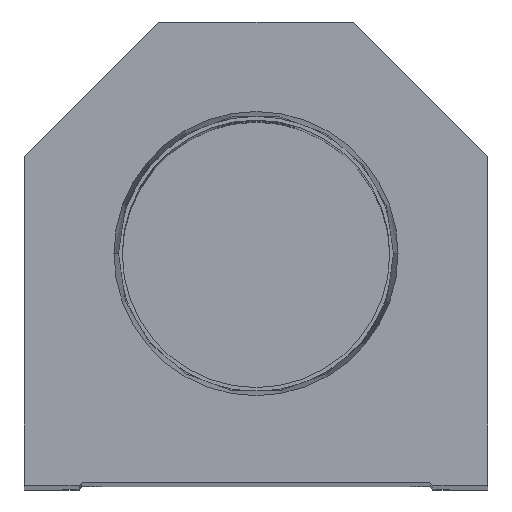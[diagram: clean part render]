
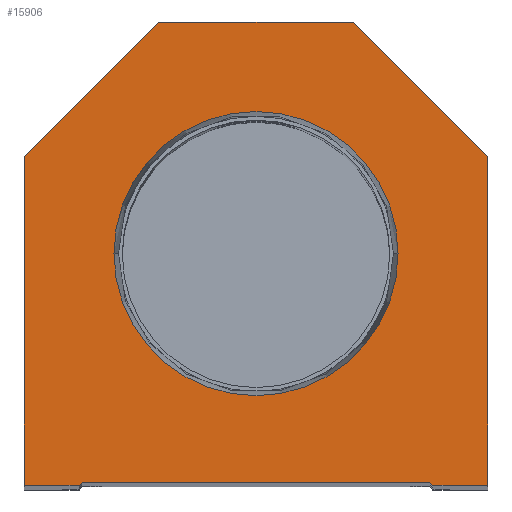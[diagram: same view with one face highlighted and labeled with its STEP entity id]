
A CAD part, top view. The second image highlights one B-rep face of the part: STEP entity #15906.
In plain terms, the highlighted planar face has unit normal (0, 0, 1).
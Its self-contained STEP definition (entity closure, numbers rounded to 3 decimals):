
#219 = CARTESIAN_POINT ( 'NONE',  ( 0., 38.1, 0. ) ) ;
#246 = LINE ( 'NONE', #3208, #18527 ) ;
#259 = DIRECTION ( 'NONE',  ( -1., 0., 0. ) ) ;
#434 = VERTEX_POINT ( 'NONE', #5873 ) ;
#724 = VERTEX_POINT ( 'NONE', #2508 ) ;
#907 = CARTESIAN_POINT ( 'NONE',  ( -38.1, 54.1, 0. ) ) ;
#1004 = DIRECTION ( 'NONE',  ( 0.707, 0.707, 0. ) ) ;
#1128 = LINE ( 'NONE', #7041, #18138 ) ;
#1333 = FACE_OUTER_BOUND ( 'NONE', #13747, .T. ) ;
#1508 = ORIENTED_EDGE ( 'NONE', *, *, #17339, .T. ) ;
#1528 = CARTESIAN_POINT ( 'NONE',  ( 0., 0., 0. ) ) ;
#1847 = LINE ( 'NONE', #17869, #14902 ) ;
#1935 = DIRECTION ( 'NONE',  ( 0.707, -0.707, 0. ) ) ;
#2019 = DIRECTION ( 'NONE',  ( 1., 0., 0. ) ) ;
#2057 = VERTEX_POINT ( 'NONE', #7004 ) ;
#2158 = LINE ( 'NONE', #9675, #15221 ) ;
#2508 = CARTESIAN_POINT ( 'NONE',  ( 16., 76.2, 0. ) ) ;
#2545 = VECTOR ( 'NONE', #17493, 1000. ) ;
#2548 = VERTEX_POINT ( 'NONE', #15929 ) ;
#2616 = AXIS2_PLACEMENT_3D ( 'NONE', #219, #4869, #2019 ) ;
#2755 = CARTESIAN_POINT ( 'NONE',  ( 29.1, 0., 0. ) ) ;
#2778 = DIRECTION ( 'NONE',  ( 0., 0., 1. ) ) ;
#2848 = EDGE_CURVE ( 'NONE', #2057, #11576, #11567, .T. ) ;
#3208 = CARTESIAN_POINT ( 'NONE',  ( 38.1, 54.1, 0. ) ) ;
#4226 = EDGE_CURVE ( 'NONE', #8036, #10357, #1128, .T. ) ;
#4869 = DIRECTION ( 'NONE',  ( 0., 0., 1. ) ) ;
#4924 = LINE ( 'NONE', #11977, #16114 ) ;
#4927 = EDGE_CURVE ( 'NONE', #17643, #2057, #13966, .T. ) ;
#4932 = ORIENTED_EDGE ( 'NONE', *, *, #16409, .T. ) ;
#4944 = DIRECTION ( 'NONE',  ( 0., 0., 1. ) ) ;
#5067 = ORIENTED_EDGE ( 'NONE', *, *, #4226, .T. ) ;
#5224 = ORIENTED_EDGE ( 'NONE', *, *, #2848, .T. ) ;
#5424 = AXIS2_PLACEMENT_3D ( 'NONE', #1528, #2778, #14487 ) ;
#5519 = DIRECTION ( 'NONE',  ( 1., 0., 0. ) ) ;
#5597 = CIRCLE ( 'NONE', #11966, 23.374 ) ;
#5873 = CARTESIAN_POINT ( 'NONE',  ( 28.6, 0.5, 0. ) ) ;
#6478 = ORIENTED_EDGE ( 'NONE', *, *, #8342, .T. ) ;
#7004 = CARTESIAN_POINT ( 'NONE',  ( -38.1, 54.1, 0. ) ) ;
#7041 = CARTESIAN_POINT ( 'NONE',  ( 28.6, 0., 0. ) ) ;
#7797 = CIRCLE ( 'NONE', #2616, 23.374 ) ;
#7862 = EDGE_LOOP ( 'NONE', ( #15260, #9774 ) ) ;
#8036 = VERTEX_POINT ( 'NONE', #2755 ) ;
#8342 = EDGE_CURVE ( 'NONE', #434, #8036, #1847, .T. ) ;
#8355 = DIRECTION ( 'NONE',  ( 0., 1., 0. ) ) ;
#8694 = PLANE ( 'NONE',  #5424 ) ;
#8721 = VECTOR ( 'NONE', #12517, 1000. ) ;
#8730 = CARTESIAN_POINT ( 'NONE',  ( -38.1, 0., 0. ) ) ;
#9199 = EDGE_CURVE ( 'NONE', #10568, #2548, #11566, .T. ) ;
#9307 = CARTESIAN_POINT ( 'NONE',  ( 16., 76.2, 0. ) ) ;
#9402 = LINE ( 'NONE', #14057, #15802 ) ;
#9675 = CARTESIAN_POINT ( 'NONE',  ( -28.6, 0.5, 0. ) ) ;
#9773 = CARTESIAN_POINT ( 'NONE',  ( -14.55, 14.55, 0. ) ) ;
#9774 = ORIENTED_EDGE ( 'NONE', *, *, #10637, .F. ) ;
#10080 = ORIENTED_EDGE ( 'NONE', *, *, #15539, .T. ) ;
#10357 = VERTEX_POINT ( 'NONE', #12381 ) ;
#10509 = ORIENTED_EDGE ( 'NONE', *, *, #9199, .T. ) ;
#10568 = VERTEX_POINT ( 'NONE', #16984 ) ;
#10637 = EDGE_CURVE ( 'NONE', #17775, #16775, #5597, .T. ) ;
#11312 = VECTOR ( 'NONE', #1004, 1000. ) ;
#11429 = CARTESIAN_POINT ( 'NONE',  ( -16., 76.2, 0. ) ) ;
#11566 = LINE ( 'NONE', #9773, #11312 ) ;
#11567 = LINE ( 'NONE', #8730, #2545 ) ;
#11576 = VERTEX_POINT ( 'NONE', #16302 ) ;
#11797 = ORIENTED_EDGE ( 'NONE', *, *, #4927, .T. ) ;
#11945 = DIRECTION ( 'NONE',  ( -0.707, 0.707, 0. ) ) ;
#11966 = AXIS2_PLACEMENT_3D ( 'NONE', #16497, #4944, #14968 ) ;
#11977 = CARTESIAN_POINT ( 'NONE',  ( -28.6, 0., 0. ) ) ;
#12137 = ORIENTED_EDGE ( 'NONE', *, *, #18188, .T. ) ;
#12381 = CARTESIAN_POINT ( 'NONE',  ( 38.1, 0., 0. ) ) ;
#12517 = DIRECTION ( 'NONE',  ( -0.707, -0.707, 0. ) ) ;
#13264 = CARTESIAN_POINT ( 'NONE',  ( 23.374, 38.1, 0. ) ) ;
#13728 = EDGE_CURVE ( 'NONE', #16775, #17775, #7797, .T. ) ;
#13747 = EDGE_LOOP ( 'NONE', ( #4932, #10509, #12137, #6478, #5067, #15963, #10080, #1508, #11797, #5224 ) ) ;
#13966 = LINE ( 'NONE', #907, #8721 ) ;
#14057 = CARTESIAN_POINT ( 'NONE',  ( 38.1, 0., 0. ) ) ;
#14487 = DIRECTION ( 'NONE',  ( 1., 0., 0. ) ) ;
#14571 = CARTESIAN_POINT ( 'NONE',  ( -23.374, 38.1, 0. ) ) ;
#14859 = DIRECTION ( 'NONE',  ( 1., 0., 0. ) ) ;
#14902 = VECTOR ( 'NONE', #1935, 1000. ) ;
#14968 = DIRECTION ( 'NONE',  ( 1., 0., 0. ) ) ;
#15114 = LINE ( 'NONE', #9307, #16111 ) ;
#15221 = VECTOR ( 'NONE', #18464, 1000. ) ;
#15260 = ORIENTED_EDGE ( 'NONE', *, *, #13728, .F. ) ;
#15539 = EDGE_CURVE ( 'NONE', #17232, #724, #246, .T. ) ;
#15802 = VECTOR ( 'NONE', #8355, 1000. ) ;
#15906 = ADVANCED_FACE ( 'NONE', ( #17274, #1333 ), #8694, .T. ) ;
#15929 = CARTESIAN_POINT ( 'NONE',  ( -28.6, 0.5, 0. ) ) ;
#15963 = ORIENTED_EDGE ( 'NONE', *, *, #17425, .T. ) ;
#16111 = VECTOR ( 'NONE', #259, 1000. ) ;
#16114 = VECTOR ( 'NONE', #14859, 1000. ) ;
#16302 = CARTESIAN_POINT ( 'NONE',  ( -38.1, 0., 0. ) ) ;
#16409 = EDGE_CURVE ( 'NONE', #11576, #10568, #4924, .T. ) ;
#16497 = CARTESIAN_POINT ( 'NONE',  ( 0., 38.1, 0. ) ) ;
#16775 = VERTEX_POINT ( 'NONE', #13264 ) ;
#16984 = CARTESIAN_POINT ( 'NONE',  ( -29.1, 0., 0. ) ) ;
#17135 = CARTESIAN_POINT ( 'NONE',  ( 38.1, 54.1, 0. ) ) ;
#17232 = VERTEX_POINT ( 'NONE', #17135 ) ;
#17274 = FACE_BOUND ( 'NONE', #7862, .T. ) ;
#17339 = EDGE_CURVE ( 'NONE', #724, #17643, #15114, .T. ) ;
#17425 = EDGE_CURVE ( 'NONE', #10357, #17232, #9402, .T. ) ;
#17493 = DIRECTION ( 'NONE',  ( 0., -1., 0. ) ) ;
#17643 = VERTEX_POINT ( 'NONE', #11429 ) ;
#17775 = VERTEX_POINT ( 'NONE', #14571 ) ;
#17869 = CARTESIAN_POINT ( 'NONE',  ( 14.55, 14.55, 0. ) ) ;
#18138 = VECTOR ( 'NONE', #5519, 1000. ) ;
#18188 = EDGE_CURVE ( 'NONE', #2548, #434, #2158, .T. ) ;
#18464 = DIRECTION ( 'NONE',  ( 1., 0., 0. ) ) ;
#18527 = VECTOR ( 'NONE', #11945, 1000. ) ;
